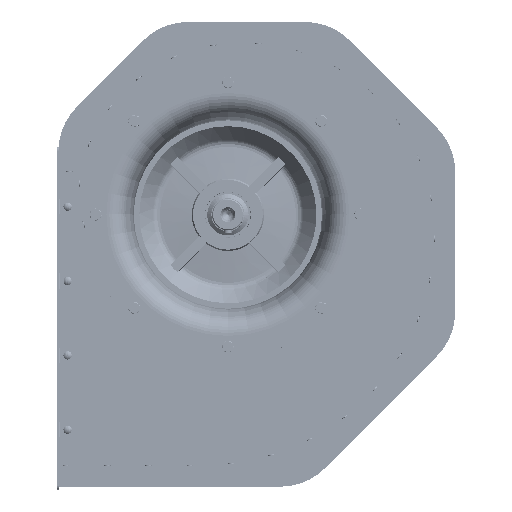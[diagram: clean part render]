
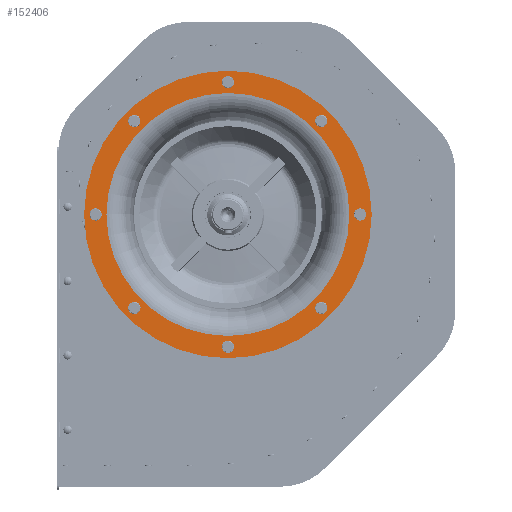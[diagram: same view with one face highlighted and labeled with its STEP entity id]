
A CAD part, top view. The second image highlights one B-rep face of the part: STEP entity #152406.
In plain terms, the highlighted planar face has unit normal (0, 0, 1).
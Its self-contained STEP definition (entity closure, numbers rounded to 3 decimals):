
#29314=PLANE('',#161380);
#35390=FACE_BOUND('',#45784,.T.);
#35391=FACE_BOUND('',#45785,.T.);
#35392=FACE_BOUND('',#45786,.T.);
#35393=FACE_BOUND('',#45787,.T.);
#35394=FACE_BOUND('',#45788,.T.);
#35395=FACE_BOUND('',#45789,.T.);
#35396=FACE_BOUND('',#45790,.T.);
#35397=FACE_BOUND('',#45791,.T.);
#35398=FACE_BOUND('',#45792,.T.);
#36902=FACE_OUTER_BOUND('',#45783,.T.);
#45783=EDGE_LOOP('',(#98624));
#45784=EDGE_LOOP('',(#98625));
#45785=EDGE_LOOP('',(#98626));
#45786=EDGE_LOOP('',(#98627));
#45787=EDGE_LOOP('',(#98628));
#45788=EDGE_LOOP('',(#98629));
#45789=EDGE_LOOP('',(#98630));
#45790=EDGE_LOOP('',(#98631));
#45791=EDGE_LOOP('',(#98632));
#45792=EDGE_LOOP('',(#98633));
#56103=CIRCLE('',#161353,0.425);
#56105=CIRCLE('',#161356,0.425);
#56107=CIRCLE('',#161359,0.425);
#56109=CIRCLE('',#161362,0.425);
#56111=CIRCLE('',#161365,0.425);
#56113=CIRCLE('',#161368,0.425);
#56115=CIRCLE('',#161371,0.425);
#56117=CIRCLE('',#161374,0.425);
#56120=CIRCLE('',#161379,14.7);
#56121=CIRCLE('',#161381,17.4);
#61993=VERTEX_POINT('',#215907);
#61995=VERTEX_POINT('',#215912);
#61997=VERTEX_POINT('',#215917);
#61999=VERTEX_POINT('',#215922);
#62001=VERTEX_POINT('',#215927);
#62003=VERTEX_POINT('',#215932);
#62005=VERTEX_POINT('',#215937);
#62007=VERTEX_POINT('',#215942);
#62010=VERTEX_POINT('',#215950);
#62011=VERTEX_POINT('',#215953);
#76341=EDGE_CURVE('',#61993,#61993,#56103,.T.);
#76343=EDGE_CURVE('',#61995,#61995,#56105,.T.);
#76345=EDGE_CURVE('',#61997,#61997,#56107,.T.);
#76347=EDGE_CURVE('',#61999,#61999,#56109,.T.);
#76349=EDGE_CURVE('',#62001,#62001,#56111,.T.);
#76351=EDGE_CURVE('',#62003,#62003,#56113,.T.);
#76353=EDGE_CURVE('',#62005,#62005,#56115,.T.);
#76355=EDGE_CURVE('',#62007,#62007,#56117,.T.);
#76358=EDGE_CURVE('',#62010,#62010,#56120,.T.);
#76359=EDGE_CURVE('',#62011,#62011,#56121,.T.);
#98624=ORIENTED_EDGE('',*,*,#76359,.F.);
#98625=ORIENTED_EDGE('',*,*,#76341,.T.);
#98626=ORIENTED_EDGE('',*,*,#76343,.T.);
#98627=ORIENTED_EDGE('',*,*,#76345,.T.);
#98628=ORIENTED_EDGE('',*,*,#76347,.T.);
#98629=ORIENTED_EDGE('',*,*,#76349,.T.);
#98630=ORIENTED_EDGE('',*,*,#76351,.T.);
#98631=ORIENTED_EDGE('',*,*,#76353,.T.);
#98632=ORIENTED_EDGE('',*,*,#76355,.T.);
#98633=ORIENTED_EDGE('',*,*,#76358,.T.);
#152406=ADVANCED_FACE('',(#36902,#35390,#35391,#35392,#35393,#35394,#35395,
#35396,#35397,#35398),#29314,.T.);
#161353=AXIS2_PLACEMENT_3D('',#215908,#176002,#176003);
#161356=AXIS2_PLACEMENT_3D('',#215913,#176008,#176009);
#161359=AXIS2_PLACEMENT_3D('',#215918,#176014,#176015);
#161362=AXIS2_PLACEMENT_3D('',#215923,#176020,#176021);
#161365=AXIS2_PLACEMENT_3D('',#215928,#176026,#176027);
#161368=AXIS2_PLACEMENT_3D('',#215933,#176032,#176033);
#161371=AXIS2_PLACEMENT_3D('',#215938,#176038,#176039);
#161374=AXIS2_PLACEMENT_3D('',#215943,#176044,#176045);
#161379=AXIS2_PLACEMENT_3D('',#215951,#176054,#176055);
#161380=AXIS2_PLACEMENT_3D('',#215952,#176056,#176057);
#161381=AXIS2_PLACEMENT_3D('',#215954,#176058,#176059);
#176002=DIRECTION('center_axis',(0.,0.,
-1.));
#176003=DIRECTION('ref_axis',(-1.,0.,0.));
#176008=DIRECTION('center_axis',(0.,0.,
-1.));
#176009=DIRECTION('ref_axis',(-1.,0.,0.));
#176014=DIRECTION('center_axis',(0.,0.,
-1.));
#176015=DIRECTION('ref_axis',(-1.,0.,0.));
#176020=DIRECTION('center_axis',(0.,0.,
-1.));
#176021=DIRECTION('ref_axis',(-1.,0.,0.));
#176026=DIRECTION('center_axis',(0.,0.,
-1.));
#176027=DIRECTION('ref_axis',(-1.,0.,0.));
#176032=DIRECTION('center_axis',(0.,0.,
-1.));
#176033=DIRECTION('ref_axis',(-1.,0.,0.));
#176038=DIRECTION('center_axis',(0.,0.,
-1.));
#176039=DIRECTION('ref_axis',(-1.,0.,0.));
#176044=DIRECTION('center_axis',(0.,0.,
-1.));
#176045=DIRECTION('ref_axis',(-1.,0.,0.));
#176054=DIRECTION('center_axis',(0.,0.,
-1.));
#176055=DIRECTION('ref_axis',(1.,0.,0.));
#176056=DIRECTION('center_axis',(0.,0.,
1.));
#176057=DIRECTION('ref_axis',(0.,1.,0.));
#176058=DIRECTION('center_axis',(0.,0.,
-1.));
#176059=DIRECTION('ref_axis',(1.,0.,0.));
#215907=CARTESIAN_POINT('',(-11.739,-11.314,18.52));
#215908=CARTESIAN_POINT('Origin',(-11.314,-11.314,18.52));
#215912=CARTESIAN_POINT('',(-16.425,0.,18.52));
#215913=CARTESIAN_POINT('Origin',(-16.,0.,
18.52));
#215917=CARTESIAN_POINT('',(-11.739,11.314,18.52));
#215918=CARTESIAN_POINT('Origin',(-11.314,11.314,18.52));
#215922=CARTESIAN_POINT('',(-0.425,16.,18.52));
#215923=CARTESIAN_POINT('Origin',(0.,16.,
18.52));
#215927=CARTESIAN_POINT('',(10.889,11.314,18.52));
#215928=CARTESIAN_POINT('Origin',(11.314,11.314,18.52));
#215932=CARTESIAN_POINT('',(15.575,0.,18.52));
#215933=CARTESIAN_POINT('Origin',(16.,0.,
18.52));
#215937=CARTESIAN_POINT('',(10.889,-11.314,18.52));
#215938=CARTESIAN_POINT('Origin',(11.314,-11.314,18.52));
#215942=CARTESIAN_POINT('',(-0.425,-16.,18.52));
#215943=CARTESIAN_POINT('Origin',(0.,-16.,
18.52));
#215950=CARTESIAN_POINT('',(14.7,0.,18.52));
#215951=CARTESIAN_POINT('Origin',(0.,0.,
18.52));
#215952=CARTESIAN_POINT('Origin',(16.05,0.,
18.52));
#215953=CARTESIAN_POINT('',(17.4,0.,18.52));
#215954=CARTESIAN_POINT('Origin',(0.,0.,
18.52));
